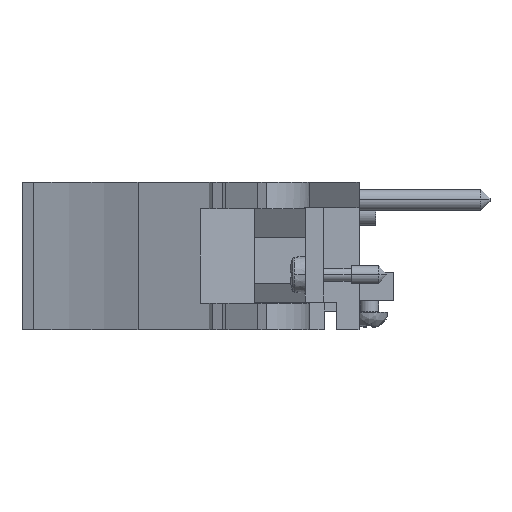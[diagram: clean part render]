
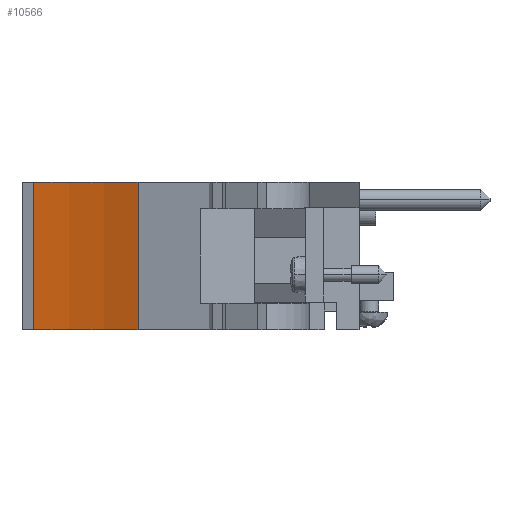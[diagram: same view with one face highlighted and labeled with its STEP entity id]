
A CAD part, front view. The second image highlights one B-rep face of the part: STEP entity #10566.
In plain terms, the highlighted cylindrical face has radius 51.46 mm (diameter 102.919 mm), a partial arc.
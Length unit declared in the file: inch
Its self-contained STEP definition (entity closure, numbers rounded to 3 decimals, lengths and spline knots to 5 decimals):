
#473=CARTESIAN_POINT('',(-1.97633,-5.95079,0.695));
#474=DIRECTION('',(0.,0.,1.));
#475=DIRECTION('',(0.435,0.9,0.));
#476=AXIS2_PLACEMENT_3D('',#473,#474,#475);
#818=CARTESIAN_POINT('',(-1.97633,-5.95079,-0.093));
#819=DIRECTION('',(0.,0.,1.));
#820=DIRECTION('',(0.435,0.9,0.));
#821=AXIS2_PLACEMENT_3D('',#818,#819,#820);
#1036=DIRECTION('',(0.,0.,1.));
#1037=VECTOR('',#1036,0.788);
#1038=CARTESIAN_POINT('',(-1.653,-3.95079,-0.093));
#1039=LINE('',#1038,#1037);
#1044=DIRECTION('',(0.,0.,1.));
#1045=VECTOR('',#1044,0.788);
#1046=CARTESIAN_POINT('',(-1.09503,-4.12655,-0.093));
#1047=LINE('',#1046,#1045);
#7626=CARTESIAN_POINT('',(-1.09503,-4.12655,-0.093));
#7627=CARTESIAN_POINT('',(-1.653,-3.95079,-0.093));
#7628=VERTEX_POINT('',#7626);
#7629=VERTEX_POINT('',#7627);
#7630=CARTESIAN_POINT('',(-1.09503,-4.12655,0.695));
#7631=CARTESIAN_POINT('',(-1.653,-3.95079,0.695));
#7632=VERTEX_POINT('',#7630);
#7633=VERTEX_POINT('',#7631);
#10554=CARTESIAN_POINT('',(-1.97633,-5.95079,0.695));
#10555=DIRECTION('',(0.,0.,1.));
#10556=DIRECTION('',(0.,1.,0.));
#10557=AXIS2_PLACEMENT_3D('',#10554,#10555,#10556);
#10558=CYLINDRICAL_SURFACE('',#10557,2.02597);
#10559=ORIENTED_EDGE('',*,*,#10272,.T.);
#10560=ORIENTED_EDGE('',*,*,#10546,.T.);
#10561=ORIENTED_EDGE('',*,*,#9821,.F.);
#10563=ORIENTED_EDGE('',*,*,#10562,.F.);
#10564=EDGE_LOOP('',(#10559,#10560,#10561,#10563));
#10565=FACE_OUTER_BOUND('',#10564,.F.);
#10566=ADVANCED_FACE('',(#10565),#10558,.F.);
#477=CIRCLE('',#476,2.02597);
#822=CIRCLE('',#821,2.02597);
#9821=EDGE_CURVE('',#7632,#7633,#477,.T.);
#10272=EDGE_CURVE('',#7628,#7629,#822,.T.);
#10546=EDGE_CURVE('',#7629,#7633,#1039,.T.);
#10562=EDGE_CURVE('',#7628,#7632,#1047,.T.);
